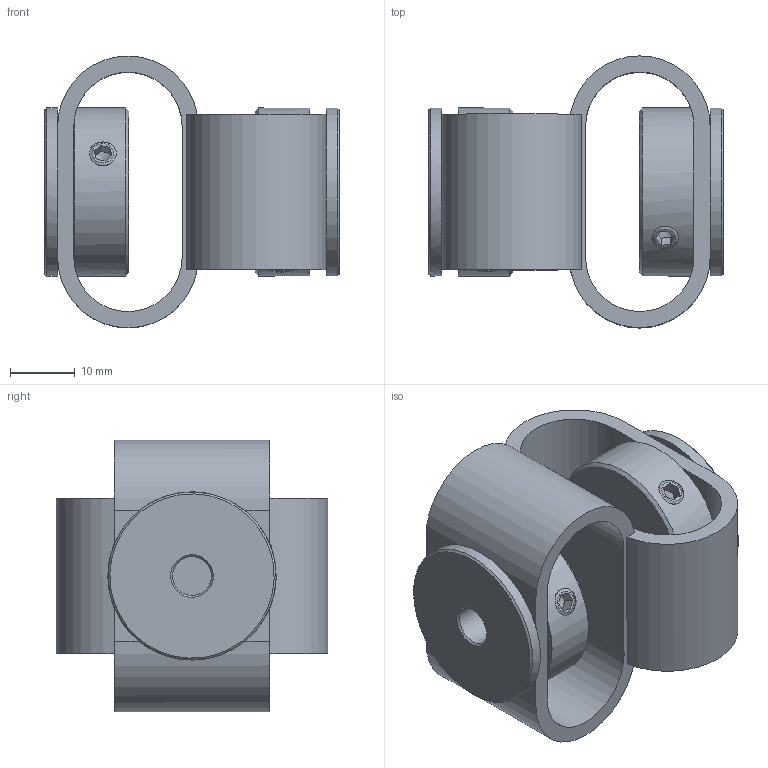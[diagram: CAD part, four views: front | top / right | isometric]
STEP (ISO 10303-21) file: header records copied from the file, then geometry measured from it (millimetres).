
FILE_DESCRIPTION(/* description */ (''),/* implementation_level */ '2;1');
FILE_NAME(/* name */ 'E:\ABP_bauteile\Doppelschlaufenkupplung\DKPS_4848\Doppelschlaufenkupplung_DKPS_4848_06_06.stp',/* time_stamp */ '2015-03-13T13:45:34+01:00',/* author */ ('Rob'),/* organization */ (''),/* preprocessor_version */ 'ST-DEVELOPER v15.6',/* originating_system */ 'Autodesk Inventor 2015',/* authorisation */ '');
FILE_SCHEMA (('CONFIG_CONTROL_DESIGN'));
Length unit declared in the file: millimetre
Products named in the file (1): Bauteil5
Bounding box: 45.55 x 42.03 x 42.03 mm (x, y, z)
Volume: 20881 mm3; surface area: 13442.1 mm2
Topology: 1 solids, 2 shells, 142 faces, 323 edges, 192 vertices
Faces by surface type: plane 83, cone 32, cylinder 27
Full cylindrical faces by diameter (mm): 4.134 x8, 6 x2, 16.5 x2, 18 x3, 26 x4
Entity records: 3760 total; most frequent: CARTESIAN_POINT 897, DIRECTION 620, ORIENTED_EDGE 494, AXIS2_PLACEMENT_3D 250, EDGE_CURVE 247, EDGE_LOOP 206, VERTEX_POINT 159, FACE_OUTER_BOUND 142
